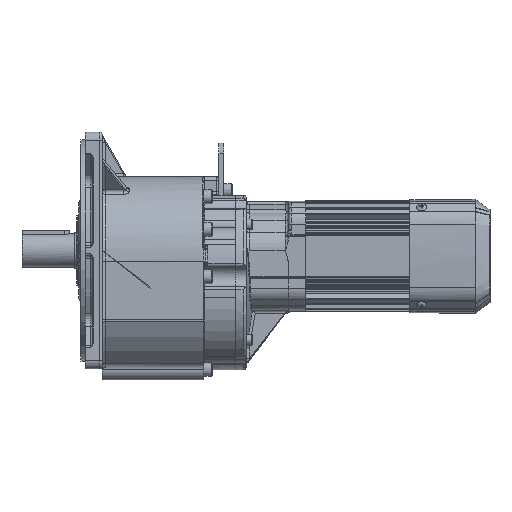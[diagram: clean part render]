
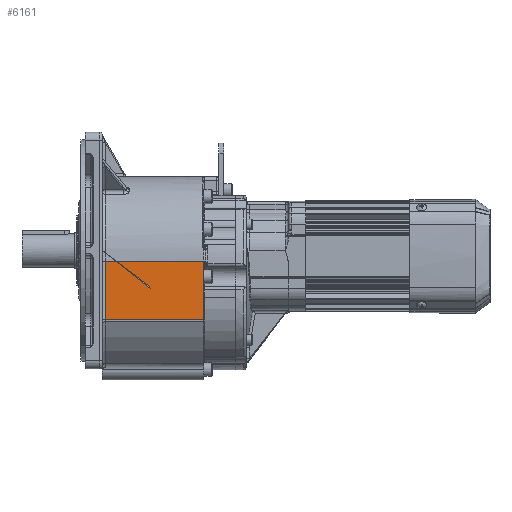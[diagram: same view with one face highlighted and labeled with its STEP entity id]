
A CAD part, left-side view. The second image highlights one B-rep face of the part: STEP entity #6161.
In plain terms, the highlighted planar face has unit normal (-1, 0, 0).
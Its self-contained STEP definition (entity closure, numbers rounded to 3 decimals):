
#6161 = ADVANCED_FACE( '', ( #13301 ), #13302, .F. );
#13301 = FACE_OUTER_BOUND( '', #38200, .T. );
#13302 = PLANE( '', #38201 );
#38200 = EDGE_LOOP( '', ( #60674, #60675, #60676, #60677, #60678 ) );
#38201 = AXIS2_PLACEMENT_3D( '', #60679, #60680, #60681 );
#60674 = ORIENTED_EDGE( '', *, *, #73509, .T. );
#60675 = ORIENTED_EDGE( '', *, *, #73510, .F. );
#60676 = ORIENTED_EDGE( '', *, *, #70582, .T. );
#60677 = ORIENTED_EDGE( '', *, *, #69861, .F. );
#60678 = ORIENTED_EDGE( '', *, *, #71911, .T. );
#60679 = CARTESIAN_POINT( '', ( 83.679, -83.7, -10.233 ) );
#60680 = DIRECTION( '', ( 1., 0., 0. ) );
#60681 = DIRECTION( '', ( 0., 0., -1. ) );
#69861 = EDGE_CURVE( '', #80575, #80576, #80577, .T. );
#70582 = EDGE_CURVE( '', #81666, #80576, #81667, .T. );
#71911 = EDGE_CURVE( '', #80575, #83526, #83528, .T. );
#73509 = EDGE_CURVE( '', #83526, #85500, #85501, .T. );
#73510 = EDGE_CURVE( '', #81666, #85500, #85502, .T. );
#80575 = VERTEX_POINT( '', #99441 );
#80576 = VERTEX_POINT( '', #99442 );
#80577 = LINE( '', #99443, #99444 );
#81666 = VERTEX_POINT( '', #101759 );
#81667 = LINE( '', #101760, #101761 );
#83526 = VERTEX_POINT( '', #105705 );
#83528 = LINE( '', #105707, #105708 );
#85500 = VERTEX_POINT( '', #109792 );
#85501 = LINE( '', #109793, #109794 );
#85502 = LINE( '', #109795, #109796 );
#99441 = CARTESIAN_POINT( '', ( 83.679, -3., -10.233 ) );
#99442 = CARTESIAN_POINT( '', ( 83.679, -96.5, -10.233 ) );
#99443 = CARTESIAN_POINT( '', ( 83.679, -83.7, -10.233 ) );
#99444 = VECTOR( '', #117494, 1000. );
#101759 = CARTESIAN_POINT( '', ( 83.679, -96.5, -13. ) );
#101760 = CARTESIAN_POINT( '', ( 83.679, -96.5, -10.233 ) );
#101761 = VECTOR( '', #118484, 1000. );
#105705 = CARTESIAN_POINT( '', ( 83.679, -3., -65.986 ) );
#105707 = CARTESIAN_POINT( '', ( 83.679, -3., -10.233 ) );
#105708 = VECTOR( '', #120305, 1000. );
#109792 = CARTESIAN_POINT( '', ( 83.679, -96.5, -65.986 ) );
#109793 = CARTESIAN_POINT( '', ( 83.679, -83.7, -65.986 ) );
#109794 = VECTOR( '', #122188, 1000. );
#109795 = CARTESIAN_POINT( '', ( 83.679, -96.5, -10.233 ) );
#109796 = VECTOR( '', #122189, 1000. );
#117494 = DIRECTION( '', ( 0., -1., 0. ) );
#118484 = DIRECTION( '', ( 0., 0., 1. ) );
#120305 = DIRECTION( '', ( 0., 0., -1. ) );
#122188 = DIRECTION( '', ( 0., -1., 0. ) );
#122189 = DIRECTION( '', ( 0., 0., -1. ) );
